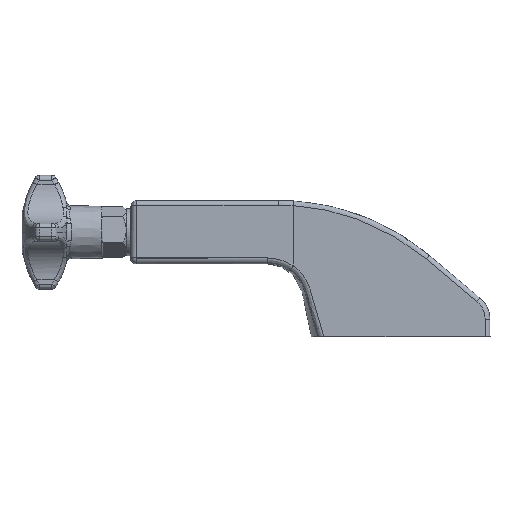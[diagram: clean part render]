
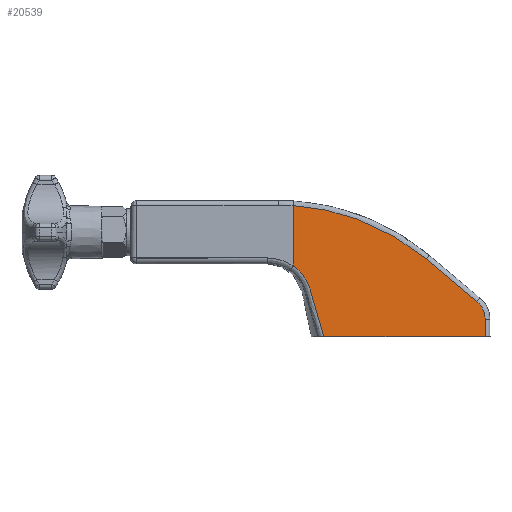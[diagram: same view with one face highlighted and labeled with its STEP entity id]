
A CAD part, left-side view. The second image highlights one B-rep face of the part: STEP entity #20539.
In plain terms, the highlighted planar face has unit normal (-1, 0, 0.018).
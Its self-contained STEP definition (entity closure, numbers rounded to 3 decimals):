
#7 = CARTESIAN_POINT ( 'NONE',  ( -18.624, 76.937, 21.518 ) ) ;
#810 = DIRECTION ( 'NONE',  ( 0., -1., 0. ) ) ;
#947 = VERTEX_POINT ( 'NONE', #9202 ) ;
#1612 = CARTESIAN_POINT ( 'NONE',  ( -18.422, 27.147, 33.107 ) ) ;
#1722 = CARTESIAN_POINT ( 'NONE',  ( -18.56, 78.919, 25.209 ) ) ;
#1789 = VERTEX_POINT ( 'NONE', #16714 ) ;
#2054 = CARTESIAN_POINT ( 'NONE',  ( -18.737, 5.637, 15.058 ) ) ;
#2106 = ORIENTED_EDGE ( 'NONE', *, *, #17153, .T. ) ;
#2734 = EDGE_CURVE ( 'NONE', #1789, #16271, #11514, .T. ) ;
#2776 = CARTESIAN_POINT ( 'NONE',  ( -18.422, 27.13, 33.093 ) ) ;
#2797 =( BOUNDED_CURVE ( )  B_SPLINE_CURVE ( 3, ( #8642, #15649, #22667, #6917 ),
 .UNSPECIFIED., .F., .F. ) 
 B_SPLINE_CURVE_WITH_KNOTS ( ( 4, 4 ),
 ( 4.721, 5.585 ),
 .UNSPECIFIED. ) 
 CURVE ( )  GEOMETRIC_REPRESENTATION_ITEM ( )  RATIONAL_B_SPLINE_CURVE ( ( 1., 0.939, 0.939, 1. ) ) 
 REPRESENTATION_ITEM ( '' )  );
#2823 = CARTESIAN_POINT ( 'NONE',  ( -19., 70.729, 0. ) ) ;
#2834 = CARTESIAN_POINT ( 'NONE',  ( -19., 70.729, 0. ) ) ;
#3061 = CARTESIAN_POINT ( 'NONE',  ( -18.026, 83.784, 55.827 ) ) ;
#3160 = VERTEX_POINT ( 'NONE', #6664 ) ;
#3432 = CARTESIAN_POINT ( 'NONE',  ( -18.504, 81.585, 28.394 ) ) ;
#3702 = VERTEX_POINT ( 'NONE', #14325 ) ;
#3824 = ORIENTED_EDGE ( 'NONE', *, *, #4618, .T. ) ;
#4010 = AXIS2_PLACEMENT_3D ( 'NONE', #13803, #20815, #5065 ) ;
#4446 = CARTESIAN_POINT ( 'NONE',  ( -19., 83.79, 0.01 ) ) ;
#4618 = EDGE_CURVE ( 'NONE', #16271, #5026, #9510, .T. ) ;
#4765 = CARTESIAN_POINT ( 'NONE',  ( -18.026, 83.784, 55.829 ) ) ;
#5026 = VERTEX_POINT ( 'NONE', #6453 ) ;
#5065 = DIRECTION ( 'NONE',  ( 0.017, 0., 1. ) ) ;
#5261 = CARTESIAN_POINT ( 'NONE',  ( -18.677, 76.058, 18.497 ) ) ;
#5782 = EDGE_CURVE ( 'NONE', #947, #1789, #20190, .T. ) ;
#5861 =( BOUNDED_CURVE ( )  B_SPLINE_CURVE ( 3, ( #1612, #8598, #15607, #22626 ),
 .UNSPECIFIED., .F., .F. ) 
 B_SPLINE_CURVE_WITH_KNOTS ( ( 4, 4 ),
 ( 5.585, 6.218 ),
 .UNSPECIFIED. ) 
 CURVE ( )  GEOMETRIC_REPRESENTATION_ITEM ( )  RATIONAL_B_SPLINE_CURVE ( ( 1., 0.967, 0.967, 1. ) ) 
 REPRESENTATION_ITEM ( '' )  );
#5913 = CARTESIAN_POINT ( 'NONE',  ( -19., 2., -0.017 ) ) ;
#6085 = EDGE_CURVE ( 'NONE', #3702, #17689, #2797, .T. ) ;
#6453 = CARTESIAN_POINT ( 'NONE',  ( -19., 2., 0. ) ) ;
#6664 = CARTESIAN_POINT ( 'NONE',  ( -18.422, 27.147, 33.107 ) ) ;
#6788 = PLANE ( 'NONE',  #4010 ) ;
#6917 = CARTESIAN_POINT ( 'NONE',  ( -18.737, 5.637, 15.058 ) ) ;
#6982 = CARTESIAN_POINT ( 'NONE',  ( -18.654, 76.433, 19.847 ) ) ;
#7239 = EDGE_CURVE ( 'NONE', #5026, #3702, #21665, .T. ) ;
#7962 = EDGE_CURVE ( 'NONE', #3160, #8434, #5861, .T. ) ;
#8434 = VERTEX_POINT ( 'NONE', #18309 ) ;
#8598 = CARTESIAN_POINT ( 'NONE',  ( -18.186, 43.263, 46.631 ) ) ;
#8626 = ORIENTED_EDGE ( 'NONE', *, *, #2734, .T. ) ;
#8642 = CARTESIAN_POINT ( 'NONE',  ( -18.869, 2.065, 7.485 ) ) ;
#8706 = CARTESIAN_POINT ( 'NONE',  ( -18.57, 78.533, 24.616 ) ) ;
#9202 = CARTESIAN_POINT ( 'NONE',  ( -18.026, 83.784, 55.827 ) ) ;
#9510 = LINE ( 'NONE', #16518, #18890 ) ;
#9757 = DIRECTION ( 'NONE',  ( 0.011, 0.766, 0.643 ) ) ;
#10415 = CARTESIAN_POINT ( 'NONE',  ( -18.531, 80.183, 26.867 ) ) ;
#10847 = ORIENTED_EDGE ( 'NONE', *, *, #19048, .T. ) ;
#11444 = DIRECTION ( 'NONE',  ( -0.017, 0., -1. ) ) ;
#11514 = B_SPLINE_CURVE_WITH_KNOTS ( 'NONE', 3,
 ( #12153, #19159, #3432, #10415, #17430, #1722, #8706, #15707, #7, #6982, #13991, #21010, #5261, #12259, #19281, #11535, #18559, #2834 ),
 .UNSPECIFIED., .F., .F.,
 ( 4, 2, 2, 2, 2, 2, 2, 2, 4 ),
 ( 0., 0.004, 0.006, 0.008, 0.013, 0.014, 0.015, 0.017, 0.034 ),
 .UNSPECIFIED. ) ;
#11535 = CARTESIAN_POINT ( 'NONE',  ( -18.812, 73.872, 10.75 ) ) ;
#11761 = CARTESIAN_POINT ( 'NONE',  ( -18.026, 83.784, 55.828 ) ) ;
#12017 = VECTOR ( 'NONE', #11444, 1000. ) ;
#12153 = CARTESIAN_POINT ( 'NONE',  ( -18.474, 83.787, 30.114 ) ) ;
#12259 = CARTESIAN_POINT ( 'NONE',  ( -18.695, 75.774, 17.486 ) ) ;
#12314 = ORIENTED_EDGE ( 'NONE', *, *, #6085, .T. ) ;
#12927 = DIRECTION ( 'NONE',  ( 0.017, 0.009, 1. ) ) ;
#13803 = CARTESIAN_POINT ( 'NONE',  ( -19., 0., 0. ) ) ;
#13983 = ORIENTED_EDGE ( 'NONE', *, *, #5782, .T. ) ;
#13991 = CARTESIAN_POINT ( 'NONE',  ( -18.659, 76.341, 19.508 ) ) ;
#14095 = ORIENTED_EDGE ( 'NONE', *, *, #7962, .T. ) ;
#14325 = CARTESIAN_POINT ( 'NONE',  ( -18.869, 2.065, 7.485 ) ) ;
#15607 = CARTESIAN_POINT ( 'NONE',  ( -18.049, 62.789, 54.464 ) ) ;
#15649 = CARTESIAN_POINT ( 'NONE',  ( -18.817, 2.091, 10.458 ) ) ;
#15707 = CARTESIAN_POINT ( 'NONE',  ( -18.602, 77.489, 22.794 ) ) ;
#16271 = VERTEX_POINT ( 'NONE', #2823 ) ;
#16518 = CARTESIAN_POINT ( 'NONE',  ( -19., 0., 0. ) ) ;
#16714 = CARTESIAN_POINT ( 'NONE',  ( -18.474, 83.787, 30.114 ) ) ;
#17153 = EDGE_CURVE ( 'NONE', #17689, #3160, #18493, .T. ) ;
#17430 = CARTESIAN_POINT ( 'NONE',  ( -18.54, 79.743, 26.332 ) ) ;
#17689 = VERTEX_POINT ( 'NONE', #2054 ) ;
#18014 = VECTOR ( 'NONE', #12927, 1000. ) ;
#18309 = CARTESIAN_POINT ( 'NONE',  ( -18.026, 83.784, 55.829 ) ) ;
#18493 = LINE ( 'NONE', #2776, #19642 ) ;
#18559 = CARTESIAN_POINT ( 'NONE',  ( -18.906, 72.319, 5.369 ) ) ;
#18781 = CARTESIAN_POINT ( 'NONE',  ( -18.026, 83.784, 55.827 ) ) ;
#18890 = VECTOR ( 'NONE', #810, 1000. ) ;
#19048 = EDGE_CURVE ( 'NONE', #8434, #947, #19232, .T. ) ;
#19159 = CARTESIAN_POINT ( 'NONE',  ( -18.488, 82.63, 29.309 ) ) ;
#19232 = B_SPLINE_CURVE_WITH_KNOTS ( 'NONE', 3,
 ( #4765, #11761, #18781, #3061 ),
 .UNSPECIFIED., .F., .F.,
 ( 4, 4 ),
 ( 0., 0. ),
 .UNSPECIFIED. ) ;
#19281 = CARTESIAN_POINT ( 'NONE',  ( -18.707, 75.584, 16.813 ) ) ;
#19642 = VECTOR ( 'NONE', #9757, 1000. ) ;
#20190 = LINE ( 'NONE', #4446, #12017 ) ;
#20539 = ADVANCED_FACE ( 'NONE', ( #22532 ), #6788, .T. ) ;
#20815 = DIRECTION ( 'NONE',  ( -1., 0., 0.017 ) ) ;
#21010 = CARTESIAN_POINT ( 'NONE',  ( -18.671, 76.153, 18.834 ) ) ;
#21665 = LINE ( 'NONE', #5913, #18014 ) ;
#21855 = EDGE_LOOP ( 'NONE', ( #13983, #8626, #3824, #21894, #12314, #2106, #14095, #10847 ) ) ;
#21894 = ORIENTED_EDGE ( 'NONE', *, *, #7239, .T. ) ;
#22532 = FACE_OUTER_BOUND ( 'NONE', #21855, .T. ) ;
#22626 = CARTESIAN_POINT ( 'NONE',  ( -18.026, 83.784, 55.829 ) ) ;
#22667 = CARTESIAN_POINT ( 'NONE',  ( -18.771, 3.359, 13.147 ) ) ;
